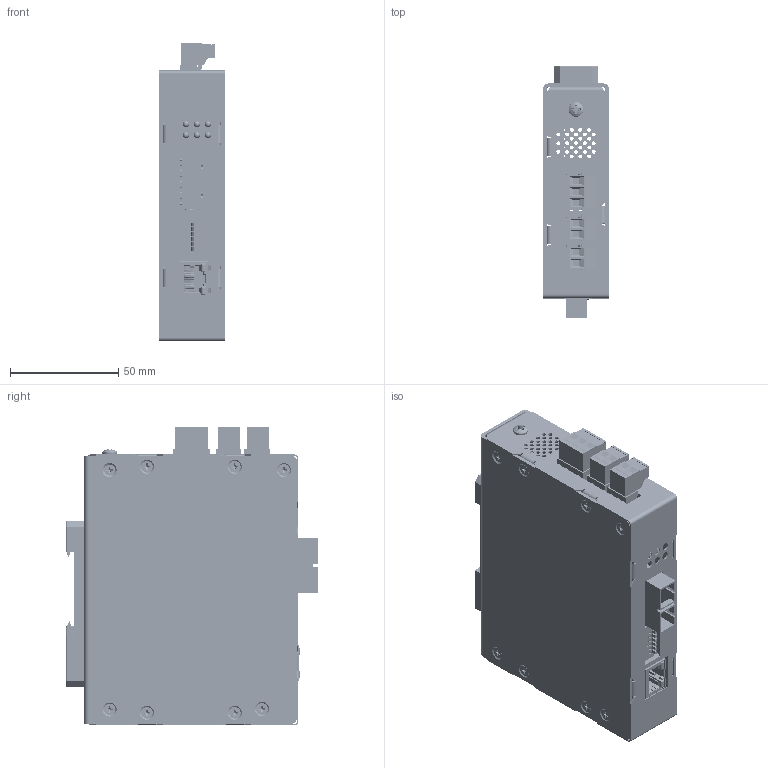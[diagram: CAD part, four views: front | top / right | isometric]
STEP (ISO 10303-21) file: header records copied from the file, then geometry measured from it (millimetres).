
FILE_DESCRIPTION(/* description */ ('STEP AP242','CAx-IF Rec.Pracs.---Representation and Presentation of Product Manufacturing Information (PMI)---4.0---2014-10-13','CAx-IF Rec.Pracs.---3D Tessellated Geometry---0.4---2014-09-14','2;1'),/* implementation_level */ '2;1');
FILE_NAME(/* name */ '618eb5c74c1f814197917c34',/* time_stamp */ '2021-11-12T18:43:24+00:00',/* author */ (''),/* organization */ (''),/* preprocessor_version */ 'ST-DEVELOPER v18.1',/* originating_system */ ' ',/* authorisation */ ' ');
FILE_SCHEMA (('AP242_MANAGED_MODEL_BASED_3D_ENGINEERING_MIM_LF { 1 0 10303 442 1 1 4 }'));
Products named in the file (30): CD-381 - EFD-XX-2-DIN - Rev E; 96640A334_Black-Oxide 18-8 Stainless Steel Phillips Flat Head Screws; SMTSO-440-8ET-PennEngineering-3D-09-30-2021; 96640A115_Black-Oxide 18-8 Stainless Steel Phillips Flat Head Screws; 91772A144_Passivated 18-8 Stainless Steel Pan Head Phillips Screw; DINM12-RC-Assy <1>; spring^DINM12-RC-Assy; Spring clip; DINM12-RC; H-106 - 10/100 Ethernet DIN Front Cover Rev E <1>; PRODUCT_NAME_1; Part 1; PCB-EFD-XX-2 <1>; C-796638-2; C-796634-3; User Library-Dialight_564-0200-132F; M-RJHSE-X38X-REVT1; C-796634-2; 195-6MST <1>; C-796638-3; H-105 Rear Housing <1>; 95185A130_Zinc-Plated Steel Press-Fit Nut for Sheet Metal
Assembly tree (68 placements, depth 4):
  CD-381 - EFD-XX-2-DIN - Rev E
    96640A334_Black-Oxide 18-8 Stainless Steel Phillips Flat Head Screws  x14
    SMTSO-440-8ET-PennEngineering-3D-09-30-2021  x4
    96640A115_Black-Oxide 18-8 Stainless Steel Phillips Flat Head Screws  x3
    91772A144_Passivated 18-8 Stainless Steel Pan Head Phillips Screw
    DINM12-RC-Assy <1>
      spring^DINM12-RC-Assy
      Spring clip
      DINM12-RC
      spring^DINM12-RC-Assy
    H-106 - 10/100 Ethernet DIN Front Cover Rev E <1>
      PRODUCT_NAME_1  x10
      PRODUCT_NAME_1
      Part 1
    PCB-EFD-XX-2 <1>
      C-796638-2  x2
      Part 1  x4
      User Library-Dialight_564-0200-132F  x2
      Part 1
      M-RJHSE-X38X-REVT1
      C-796634-2  x2
      195-6MST <1>
        Part 1  x6
        Part 1
      Part 1
      C-796638-3
    H-105 Rear Housing <1>
      Part 1
      95185A130_Zinc-Plated Steel Press-Fit Nut for Sheet Metal  x3
  C-796634-3
Bounding box: 30.48 x 116.3 x 137.99 mm (x, y, z)
Volume: 92531.6 mm3; surface area: 129122.7 mm2
Topology: 63 solids, 64 shells, 4664 faces, 13470 edges, 9170 vertices
Faces by surface type: plane 2982, cylinder 1028, bspline 351, cone 212, torus 70, sphere 21
Full cylindrical faces by diameter (mm): 0.45 x9, 0.508 x4, 0.9 x4, 1.27 x2, 1.3 x4, 1.905 x143, 2.156 x14, 2.647 x1, 2.845 x112, 2.9 x6, 3.251 x14, 3.505 x24, 3.556 x6, 3.81 x2, 4 x10, 4.089 x4, 4.191 x10, 4.216 x14, 4.724 x1, 4.75 x1, 4.763 x3, 4.826 x3, 4.889 x10, 5.41 x8, 5.563 x13, 5.588 x10, 6.401 x1, 6.858 x1, 7.112 x3, 7.5 x1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
Entity records: 108335 total; most frequent: CARTESIAN_POINT 32421, ORIENTED_EDGE 15932, DIRECTION 14010, EDGE_CURVE 7968, VERTEX_POINT 5449, LINE 5352, VECTOR 5352, AXIS2_PLACEMENT_3D 4329
